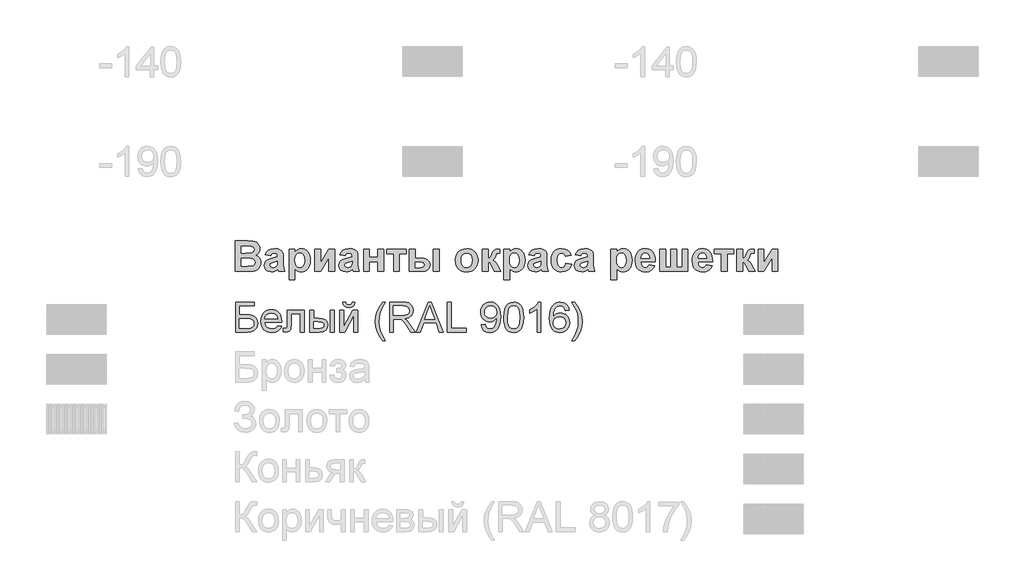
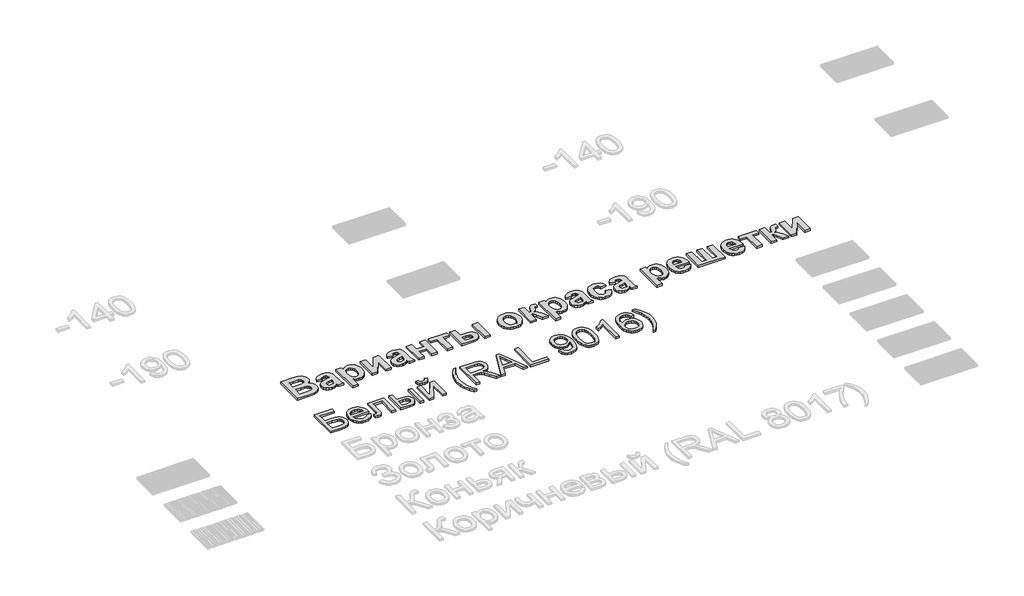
# One storey, part 6 of 10: 2 proxies.
"""IFC4 building model written with IfcOpenShell, lengths in millimetres."""

from ifc_helpers import new_model, si_unit, origin, origin_with_axes, place, context, project, spatial, polyline, outline, extrude, element, save

model = new_model("IFC4")

# Units and contexts
model_context = context("Model", 3, world=origin())
ifc_project = project(units=[si_unit("LENGTHUNIT", "METRE", prefix="MILLI")], contexts=[model_context])

# Site, building, storey
site = spatial("IfcSite", under=ifc_project)
building = spatial("IfcBuilding", under=site)
storey = spatial("IfcBuildingStorey", under=building, Name="Уровень 1", Elevation=0.0)

# Proxies
placement = place(None, origin())
element("IfcBuildingElementProxy", 1, Name="300", ObjectType="300", at=placement, inside=storey, context=model_context, shape_type="SweptSolid", body=[
    extrude(outline(polyline([(7102.1636245, -18213.7438159), (7290.519206, -18213.7438159), (7290.519206, -18251.4149322), (7139.8347408, -18251.4149322), (7139.8347408, -18340.8838335), (7210.3945075, -18340.8838335), (7245.4720557, -18342.7968198), (7272.5665647, -18348.535779), (7293.3702915, -18359.5906329), (7309.5754934, -18377.4513038), (7320.0049479, -18400.4439285), (7323.4814328, -18426.8946439), (7321.0074264, -18449.1055194), (7313.5854071, -18469.8264728), (7301.2521632, -18487.9722522), (7284.0444829, -18502.4576057), (7257.501797, -18511.9489612), (7217.1635362, -18515.1127464), (7102.1636245, -18515.1127464), (7102.1636245, -18213.7438159)]), holes=[polyline([(7139.8347408, -18477.4416301), (7220.5480505, -18477.4416301), (7249.0772993, -18474.3330272), (7269.4763559, -18465.0072186), (7281.7268263, -18449.4642043), (7285.8103165, -18427.7039843), (7283.4742658, -18411.4987824), (7276.4661138, -18398.1998483), (7265.2916982, -18388.3406108), (7250.4568567, -18382.4544989), (7193.6926649, -18378.5549498), (7139.8347408, -18378.5549498), (7139.8347408, -18477.4416301)])]), origin_with_axes(), (0.0, 0.0, 1.0), 20.0),
    extrude(outline(polyline([(7525.5222245, -18449.1882928), (7562.4575769, -18453.8971824), (7549.1494457, -18481.7274553), (7527.9134575, -18502.5311821), (7499.2278589, -18515.4990225), (7463.5708966, -18519.8216359), (7440.1965943, -18517.9569341), (7419.3698748, -18512.3628285), (7401.0907382, -18503.0393192), (7385.3591844, -18489.9864061), (7372.7086423, -18473.5673728), (7363.6725408, -18454.1455027), (7358.2508799, -18431.7207959), (7356.4436596, -18406.2932522), (7358.269274, -18380.0034851), (7363.7461172, -18356.831518), (7372.8741892, -18336.7773507), (7385.65349, -18319.8409833), (7401.3436571, -18306.3856994), (7419.2043279, -18296.7747822), (7439.2355026, -18291.008232), (7461.437181, -18289.0860485), (7482.9237888, -18291.0036334), (7502.3548559, -18296.7563881), (7519.7303824, -18306.3443126), (7535.0503682, -18319.7674069), (7547.5560568, -18336.6669861), (7556.4886915, -18356.6843652), (7561.8482723, -18379.8195441), (7563.6347992, -18406.072523), (7563.41407, -18416.2260661), (7394.1147759, -18416.2260661), (7400.6354842, -18444.424221), (7415.7830254, -18465.1543714), (7437.6444129, -18477.9014826), (7464.3066605, -18482.1505196), (7484.3562293, -18480.1823509), (7501.2420129, -18474.2778449), (7514.9640113, -18464.0691195), (7525.5222245, -18449.1882928)]), holes=[polyline([(7394.1147759, -18378.5549498), (7525.9636829, -18378.5549498), (7520.8685173, -18358.6525338), (7510.8805211, -18344.4155006), (7488.917966, -18331.1717488), (7461.2900282, -18326.7571648), (7435.8969735, -18330.279635), (7414.9001086, -18340.8470453), (7400.3043904, -18357.3189616), (7394.1147759, -18378.5549498)])]), origin_with_axes(), (0.0, 0.0, 1.0), 20.0),
    extrude(outline(polyline([(7620.1414737, -18293.7949381), (7789.6614971, -18293.7949381), (7789.6614971, -18514.8920172), (7751.9903808, -18514.8920172), (7751.9903808, -18331.4660544), (7657.81259, -18331.4660544), (7657.81259, -18437.048187), (7655.2742042, -18485.7557632), (7650.5193295, -18496.783026), (7641.3314766, -18506.3203667), (7627.388749, -18512.9146515), (7608.3692499, -18515.1127464), (7577.7614679, -18513.19976), (7577.7614679, -18477.4416301), (7594.6104632, -18477.4416301), (7611.6433996, -18475.1239735), (7618.4492165, -18467.7663336), (7620.1414737, -18434.9144714), (7620.1414737, -18293.7949381)])), origin_with_axes(), (0.0, 0.0, 1.0), 20.0),
    extrude(outline(polyline([(8053.3593112, -18293.7949381), (8091.0304275, -18293.7949381), (8091.0304275, -18515.1127464), (8053.3593112, -18515.1127464), (8053.3593112, -18293.7949381)])), origin_with_axes(), (0.0, 0.0, 1.0), 20.0),
    extrude(outline(polyline([(7846.1681715, -18293.7949381), (7883.8392878, -18293.7949381), (7883.8392878, -18373.8460602), (7930.4131484, -18373.8460602), (7970.6686358, -18378.5641468), (7986.885334, -18384.4617551), (8000.4946685, -18392.7184066), (8011.2621147, -18403.0489929), (8018.9531476, -18415.1684053), (8023.5677674, -18429.076644), (8025.105974, -18444.7737089), (8019.946429, -18471.7302621), (8004.4677941, -18494.4745665), (7992.605899, -18503.5037702), (7977.6583937, -18509.9532014), (7938.5065523, -18515.1127464), (7846.1681715, -18515.1127464), (7846.1681715, -18293.7949381)]), holes=[polyline([(7883.8392878, -18477.4416301), (7922.5404737, -18477.4416301), (7952.5412504, -18475.4642644), (7972.4988487, -18469.5321672), (7983.7008554, -18459.4062153), (7987.4348577, -18444.8472853), (7984.6665457, -18432.5416326), (7976.3616096, -18421.6707196), (7958.6021063, -18414.0555623), (7927.4700925, -18411.5171765), (7883.8392878, -18411.5171765), (7883.8392878, -18477.4416301)])]), origin_with_axes(), (0.0, 0.0, 1.0), 20.0),
    extrude(outline(polyline([(8147.537102, -18293.7949381), (8185.2082183, -18293.7949381), (8185.2082183, -18462.5791975), (8277.7673283, -18293.7949381), (8326.4749044, -18293.7949381), (8326.4749044, -18515.1127464), (8288.8037881, -18515.1127464), (8288.8037881, -18347.3585566), (8196.8332893, -18515.1127464), (8147.537102, -18515.1127464), (8147.537102, -18293.7949381)])), origin_with_axes(), (0.0, 0.0, 1.0), 20.0),
    extrude(outline(polyline([(8269.96823, -18213.7438159), (8298.2215672, -18213.7438159), (8292.1423172, -18237.8676778), (8279.937832, -18255.6455752), (8262.1599346, -18266.5992616), (8239.360448, -18270.2504904), (8214.6203838, -18266.6268527), (8195.4353378, -18255.7559398), (8182.3203446, -18238.0056335), (8175.7904392, -18213.7438159), (8204.0437764, -18213.7438159), (8208.016902, -18226.1506362), (8214.6387779, -18234.9706071), (8223.9461924, -18240.2405166), (8235.9759336, -18241.9971532), (8249.5507792, -18240.2956989), (8259.3732285, -18235.1913363), (8265.9951044, -18226.4265477), (8269.96823, -18213.7438159)])), origin_with_axes(), (0.0, 0.0, 1.0), 20.0),
    extrude(outline(polyline([(8576.04605, -18599.8727581), (8546.8546136, -18558.9090979), (8522.5560079, -18511.5075028), (8506.166865, -18459.9672353), (8500.7038174, -18406.5875578), (8504.7873075, -18359.7745739), (8517.0377779, -18314.984941), (8541.3547778, -18264.2540139), (8576.04605, -18213.7438159), (8604.2993872, -18213.7438159), (8569.0562921, -18273.4142755), (8547.8662891, -18331.2453252), (8540.7477725, -18368.9348356), (8538.3749337, -18406.808287), (8542.495212, -18455.1019959), (8554.856047, -18503.3773107), (8575.4574388, -18551.6342315), (8604.2993872, -18599.8727581), (8576.04605, -18599.8727581)])), origin_with_axes(), (0.0, 0.0, 1.0), 20.0),
    extrude(outline(polyline([(8646.679393, -18515.1127464), (8646.679393, -18213.7438159), (8776.5417373, -18213.7438159), (8811.4445416, -18215.776364), (8836.8375963, -18221.874008), (8855.397243, -18233.1311971), (8869.7998231, -18250.64238), (8879.0428582, -18272.3566148), (8882.12387, -18296.2229593), (8877.0195073, -18325.9110363), (8861.7064192, -18350.5223417), (8850.1066401, -18360.5517246), (8835.7247533, -18368.5669536), (8798.614657, -18378.5549498), (8820.0253892, -18394.6681812), (8850.5595948, -18433.4429435), (8900.8122753, -18515.1127464), (8857.0343179, -18515.1127464), (8817.8180972, -18452.6463836), (8789.4911836, -18411.2964473), (8769.5887676, -18391.7619134), (8751.6729145, -18384.5882145), (8729.820724, -18383.2638393), (8684.3505093, -18383.2638393), (8684.3505093, -18515.1127464), (8646.679393, -18515.1127464)]), holes=[polyline([(8684.3505093, -18345.592723), (8768.6690626, -18345.592723), (8792.884895, -18344.2591508), (8811.6744679, -18340.2584341), (8825.8195306, -18333.3238585), (8836.1018324, -18323.1887095), (8842.3650233, -18310.929042), (8844.4527536, -18297.6209108), (8840.4704311, -18279.2452052), (8828.5234633, -18264.4379549), (8807.9680568, -18254.6706879), (8778.1604181, -18251.4149322), (8684.3505093, -18251.4149322), (8684.3505093, -18345.592723)])]), origin_with_axes(), (0.0, 0.0, 1.0), 20.0),
    extrude(outline(polyline([(8912.9523812, -18515.1127464), (9033.2497936, -18213.7438159), (9065.3291036, -18213.7438159), (9185.626516, -18515.1127464), (9145.8216841, -18515.1127464), (9111.3143529, -18420.9349556), (8987.1909678, -18420.9349556), (8952.757213, -18515.1127464), (8912.9523812, -18515.1127464)]), holes=[polyline([(9001.0233308, -18383.2638393), (9097.5555663, -18383.2638393), (9070.4058751, -18309.1724055), (9049.2894486, -18251.4149322), (9030.5274668, -18302.6976824), (9001.0233308, -18383.2638393)])]), origin_with_axes(), (0.0, 0.0, 1.0), 20.0),
    extrude(outline(polyline([(9225.8728062, -18515.1127464), (9225.8728062, -18213.7438159), (9263.5439226, -18213.7438159), (9263.5439226, -18477.4416301), (9414.2283878, -18477.4416301), (9414.2283878, -18515.1127464), (9225.8728062, -18515.1127464)])), origin_with_axes(), (0.0, 0.0, 1.0), 20.0),
    extrude(outline(polyline([(9564.912853, -18439.7705138), (9602.5839693, -18435.0616242), (9609.0219042, -18456.4447652), (9619.5065411, -18471.0036952), (9633.7803625, -18479.3638135), (9651.5858511, -18482.1505196), (9667.5611267, -18480.3570949), (9682.0832685, -18474.9768207), (9694.1497979, -18466.5983083), (9702.7582366, -18455.8101688), (9715.0822834, -18423.0686712), (9720.526937, -18379.3642902), (9720.3062078, -18372.0066503), (9707.255594, -18387.9359406), (9690.1766724, -18400.5542931), (9670.3018476, -18408.7764557), (9648.8635243, -18411.5171765), (9630.9683645, -18409.8433135), (9614.512543, -18404.8217242), (9599.4960598, -18396.4524088), (9585.9189149, -18384.7353673), (9574.6686237, -18370.2822034), (9566.6327013, -18353.704521), (9561.8111479, -18335.0023201), (9560.2039635, -18314.1756006), (9561.8893229, -18292.6545039), (9566.945401, -18273.3406992), (9575.372198, -18256.2341864), (9587.1697137, -18241.3349656), (9601.5056152, -18229.2638376), (9617.5475695, -18220.6416033), (9635.2955765, -18215.4682628), (9654.7496362, -18213.7438159), (9682.8466236, -18217.6801533), (9708.4236193, -18229.4891653), (9729.8159573, -18248.5822409), (9745.3589716, -18274.3707687), (9754.822736, -18310.0185341), (9757.9773241, -18358.689322), (9754.831933, -18410.2939689), (9745.3957598, -18450.1815742), (9729.751578, -18480.1547598), (9707.9821609, -18502.0161474), (9681.0256077, -18515.3702638), (9649.8200175, -18519.8216359), (9617.6119488, -18514.5701204), (9591.9153914, -18498.815574), (9573.944356, -18473.551278), (9564.912853, -18439.7705138)]), holes=[polyline([(9720.3062078, -18313.2926838), (9716.2411117, -18287.7616734), (9704.0458236, -18268.1167748), (9685.1182949, -18255.5903929), (9660.8564773, -18251.4149322), (9635.6933489, -18255.9122896), (9615.5334155, -18269.4043618), (9602.2896637, -18290.0517388), (9597.8750798, -18316.0150106), (9602.0505404, -18339.2927438), (9614.5769224, -18357.769617), (9634.240215, -18369.8269494), (9659.8264078, -18373.8460602), (9683.8950873, -18369.8269494), (9703.2732714, -18357.769617), (9716.0479737, -18338.6121621), (9720.3062078, -18313.2926838)])]), origin_with_axes(), (0.0, 0.0, 1.0), 20.0),
    extrude(outline(polyline([(9790.9395508, -18366.8563023), (9793.7078629, -18318.6177757), (9802.0127989, -18280.1465161), (9815.7715855, -18250.8539122), (9834.9014493, -18230.1513529), (9859.5403459, -18217.8457002), (9889.8262311, -18213.7438159), (9913.039585, -18216.1718371), (9933.8249178, -18223.4559006), (9951.207342, -18235.3108979), (9964.2119706, -18251.4517204), (9974.0344198, -18271.7404125), (9981.8703063, -18296.0390183), (9987.0022602, -18326.8951206), (9988.7129114, -18366.8563023), (9985.9721906, -18414.8189174), (9977.750028, -18453.1982066), (9964.0740148, -18482.5184016), (9944.9717422, -18503.3037343), (9920.2776633, -18515.6921605), (9889.8262311, -18519.8216359), (9869.0776866, -18518.0282112), (9850.6835869, -18512.647937), (9834.6439319, -18503.6808134), (9820.9587216, -18491.1268403), (9807.8253344, -18468.4331197), (9798.4443435, -18440.1567899), (9792.815749, -18406.2978507), (9790.9395508, -18366.8563023)]), holes=[polyline([(9828.6106671, -18366.7827259), (9833.0252511, -18426.0393183), (9838.543481, -18446.307317), (9846.2690029, -18460.3351173), (9865.9874779, -18476.696669), (9889.8262311, -18482.1505196), (9913.6649844, -18476.6782749), (9933.3834594, -18460.2615409), (9941.1089813, -18446.2107479), (9946.6272112, -18425.9473478), (9951.0417951, -18366.7827259), (9946.774364, -18308.8597058), (9941.4400751, -18288.6583857), (9933.9720706, -18274.2971923), (9914.2903838, -18257.1354973), (9889.3847727, -18251.4149322), (9865.8035369, -18256.4549156), (9846.8576141, -18271.5748656), (9838.8745748, -18287.2098504), (9833.1724039, -18308.2894887), (9828.6106671, -18366.7827259)])]), origin_with_axes(), (0.0, 0.0, 1.0), 20.0),
    extrude(outline(polyline([(10162.9418244, -18515.1127464), (10125.2707081, -18515.1127464), (10125.2707081, -18280.2568807), (10089.5861545, -18305.6775265), (10049.9284754, -18324.6970257), (10049.9284754, -18289.0860485), (10079.5153849, -18272.9912113), (10105.1475629, -18253.8429534), (10125.3534815, -18233.480685), (10138.6616127, -18213.7438159), (10162.9418244, -18213.7438159), (10162.9418244, -18515.1127464)])), origin_with_axes(), (0.0, 0.0, 1.0), 20.0),
    extrude(outline(polyline([(10445.4751967, -18293.7949381), (10407.8040804, -18298.5038276), (10401.7340274, -18279.8338164), (10393.5302589, -18267.0867052), (10376.4421403, -18255.3328755), (10355.7855662, -18251.4149322), (10338.2743833, -18253.6958006), (10321.7932699, -18260.5384057), (10307.6390101, -18274.9501829), (10296.0783184, -18294.7882195), (10288.2700231, -18322.8484187), (10285.3729524, -18361.9266836), (10300.4837053, -18344.295939), (10318.5926965, -18331.8707246), (10338.6882505, -18324.5038876), (10359.7586918, -18322.0482753), (10377.8584859, -18323.7267369), (10394.5603285, -18328.7621217), (10409.8642195, -18337.1544297), (10423.7701589, -18348.903661), (10435.3262521, -18363.3108396), (10443.5806044, -18379.6769899), (10448.5332157, -18398.0021117), (10450.1840862, -18418.2862052), (10447.0754833, -18445.2611525), (10437.7496748, -18470.2679312), (10422.9792127, -18491.4763282), (10403.5366492, -18507.0561307), (10380.3049012, -18516.6302596), (10354.1668855, -18519.8216359), (10331.7099889, -18517.7063144), (10311.4281947, -18511.36035), (10293.3215027, -18500.7837427), (10277.3899131, -18485.9764924), (10264.4013794, -18466.3131997), (10255.1238553, -18441.1684653), (10249.5573409, -18410.5422893), (10247.7018361, -18374.4346714), (10249.7619752, -18333.9538564), (10255.9423927, -18299.4051385), (10266.2430886, -18270.7885178), (10280.6640628, -18248.1039943), (10296.2944491, -18233.0714163), (10314.4172359, -18222.3338605), (10335.0324232, -18215.8913271), (10358.140011, -18213.7438159), (10391.1942083, -18219.0597108), (10417.6633178, -18235.0073953), (10436.2045704, -18260.3360706), (10445.4751967, -18293.7949381)]), holes=[polyline([(10285.3729524, -18417.6975941), (10287.5526532, -18434.3902396), (10294.0917556, -18450.328727), (10304.2452987, -18464.0323314), (10317.2683213, -18474.0203275), (10332.9860796, -18480.1179716), (10351.2238295, -18482.1505196), (10376.0834553, -18477.9382708), (10395.6271863, -18465.3015242), (10408.291524, -18445.4358965), (10412.5129699, -18419.537004), (10408.3467063, -18394.6773782), (10395.8479155, -18375.7222584), (10375.9730907, -18363.7201083), (10349.6787251, -18359.7193916), (10324.8558875, -18363.7201083), (10304.0981459, -18375.7222584), (10290.0542507, -18394.2175257), (10285.3729524, -18417.6975941)])]), origin_with_axes(), (0.0, 0.0, 1.0), 20.0),
    extrude(outline(polyline([(10501.9818711, -18599.8727581), (10473.7285339, -18599.8727581), (10502.5704823, -18551.6342315), (10523.171874, -18503.3773107), (10535.5327091, -18455.1019959), (10539.6529874, -18406.808287), (10537.2801486, -18369.2107471), (10530.1616319, -18331.9075128), (10521.1669172, -18302.3481945), (10509.1923582, -18274.0028867), (10473.7285339, -18213.7438159), (10501.9818711, -18213.7438159), (10536.6731433, -18264.2540139), (10560.9901431, -18314.984941), (10573.2406136, -18359.7745739), (10577.3241037, -18406.5875578), (10571.833465, -18459.9672353), (10555.3615486, -18511.5075028), (10531.0353517, -18558.9090979), (10501.9818711, -18599.8727581)])), origin_with_axes(), (0.0, 0.0, 1.0), 20.0),
])
element("IfcBuildingElementProxy", 2, Name="300_", ObjectType="300_", at=placement, inside=storey, context=model_context, shape_type="SweptSolid", body=[
    extrude(outline(polyline([(7098.3516663, -17600.3985377), (7223.9862873, -17600.3985377), (7279.5919429, -17603.435024), (7296.956849, -17608.1320887), (7312.385995, -17616.1503104), (7325.6421556, -17627.4232658), (7336.4881051, -17641.8845319), (7343.7187381, -17658.9173223), (7346.1289491, -17677.9048507), (7343.2537762, -17698.5909137), (7334.6282572, -17717.530997), (7321.0684481, -17733.3397039), (7303.3904043, -17744.6316374), (7325.7465348, -17755.6009441), (7342.2574291, -17772.2636628), (7352.4486363, -17793.5000889), (7355.8457053, -17818.1905182), (7353.4070273, -17838.6962898), (7346.0909931, -17858.6137422), (7334.5523451, -17876.2633189), (7319.4458257, -17889.9654633), (7300.5911435, -17899.444994), (7277.8080072, -17904.4267294), (7202.9586197, -17906.4763576), (7098.3516663, -17906.4763576), (7098.3516663, -17600.3985377)]), holes=[polyline([(7156.6522034, -17653.8406967), (7156.6522034, -17721.85799), (7201.1367279, -17721.85799), (7250.4796304, -17720.871132), (7266.0131557, -17717.3222386), (7277.8459633, -17710.3193421), (7285.3327998, -17700.204047), (7287.828412, -17687.3179583), (7285.6744045, -17674.9917217), (7279.2123821, -17665.1895643), (7268.5182569, -17658.329003), (7253.667941, -17654.8275548), (7195.6710525, -17653.8406967), (7156.6522034, -17653.8406967)]), polyline([(7156.6522034, -17775.3001491), (7156.6522034, -17853.0341986), (7218.2928755, -17853.0341986), (7263.9919945, -17851.2123068), (7277.4853805, -17847.1415174), (7288.2079728, -17839.6357028), (7295.2108693, -17828.8466873), (7297.5451682, -17814.9262954), (7295.7422544, -17802.8562623), (7290.3335132, -17792.7599454), (7281.5277029, -17784.884059), (7269.533582, -17779.4753178), (7247.9745292, -17776.3439413), (7210.4739233, -17775.3001491), (7156.6522034, -17775.3001491)])]), origin_with_axes(), (0.0, 0.0, 1.0), 20.0),
    extrude(outline(polyline([(7453.0132672, -17751.0082586), (7399.5711082, -17741.2915024), (7411.1572013, -17713.2799162), (7428.9111571, -17693.6186674), (7454.7877139, -17682.0041072), (7490.7416096, -17678.1325872), (7523.2509912, -17680.4763751), (7546.2333969, -17687.5077387), (7561.7574332, -17698.1354407), (7571.8917062, -17711.268244), (7577.4712498, -17731.6791254), (7579.3310977, -17764.1410619), (7579.3310977, -17833.0693011), (7582.4055401, -17876.4910553), (7593.906232, -17906.4763576), (7535.6056948, -17906.4763576), (7530.1400195, -17887.9537912), (7528.0903912, -17880.5903119), (7513.0028499, -17894.0172748), (7496.8904944, -17903.6296517), (7479.7153687, -17909.4084647), (7461.4395167, -17911.3347357), (7431.710418, -17906.656649), (7409.0221718, -17892.6223889), (7394.646307, -17871.4523859), (7389.854352, -17845.3670707), (7391.9893814, -17827.4897575), (7398.3944697, -17811.6620726), (7408.6521001, -17798.5862035), (7422.3447555, -17788.9643375), (7466.7533678, -17775.2242369), (7521.0305606, -17760.7250148), (7521.0305606, -17754.57613), (7519.2181578, -17739.4316546), (7513.7809495, -17729.3732937), (7503.3335388, -17723.7368159), (7486.4905288, -17721.85799), (7474.4015177, -17723.4711234), (7465.3110368, -17728.3105234), (7458.4409865, -17737.2112239), (7453.0132672, -17751.0082586)]), holes=[polyline([(7521.0305606, -17804.4504177), (7488.1605963, -17812.5350625), (7458.7066791, -17821.7583896), (7450.7928366, -17830.0517928), (7448.1548891, -17840.3568683), (7450.2709405, -17850.6904107), (7456.6190947, -17859.5246881), (7466.2314717, -17865.5881717), (7478.1401914, -17867.6093329), (7492.4306551, -17865.256056), (7505.9999533, -17858.1962253), (7514.1605103, -17850.2634048), (7518.9050201, -17840.736429), (7521.0305606, -17815.0022076), (7521.0305606, -17804.4504177)])]), origin_with_axes(), (0.0, 0.0, 1.0), 20.0),
    extrude(outline(polyline([(7637.6316348, -17682.9909653), (7695.932172, -17682.9909653), (7695.932172, -17715.1777202), (7707.983227, -17700.204047), (7723.6401096, -17688.3807285), (7742.0677858, -17680.6946225), (7762.4312222, -17678.1325872), (7780.2919295, -17680.0375079), (7796.7530065, -17685.75227), (7811.814453, -17695.2768736), (7825.4762692, -17708.6113185), (7836.81802, -17725.3428325), (7844.9192706, -17745.0586432), (7849.7800209, -17767.7587507), (7851.400271, -17793.4431548), (7849.7278313, -17819.8558412), (7844.7105121, -17843.1466401), (7836.3483135, -17863.3155515), (7824.6412354, -17880.3625754), (7810.5524134, -17893.9128955), (7795.0449829, -17903.5916957), (7778.118944, -17909.3989757), (7759.7742966, -17911.3347357), (7742.4853027, -17909.531822), (7726.9043323, -17904.1230808), (7711.7978129, -17894.3304124), (7695.932172, -17879.3757173), (7695.932172, -17989.0687853), (7637.6316348, -17989.0687853), (7637.6316348, -17682.9909653)]), holes=[polyline([(7695.932172, -17790.8621414), (7699.5854446, -17824.9846563), (7710.5452623, -17848.8590299), (7726.761997, -17862.9217571), (7746.1860204, -17867.6093329), (7764.6231857, -17863.310807), (7779.701238, -17850.4152292), (7789.7501099, -17827.708005), (7793.0997339, -17793.9745399), (7789.6552197, -17762.0914336), (7779.3216773, -17739.6214349), (7763.8830422, -17726.2988513), (7745.1232502, -17721.85799), (7725.7371829, -17726.2134501), (7709.9379651, -17739.2798302), (7699.4336203, -17760.8863281), (7695.932172, -17790.8621414)])]), origin_with_axes(), (0.0, 0.0, 1.0), 20.0),
    extrude(outline(polyline([(7895.1256739, -17682.9909653), (7953.426211, -17682.9909653), (7953.426211, -17820.4678829), (8036.0186386, -17682.9909653), (8094.3191758, -17682.9909653), (8094.3191758, -17906.4763576), (8036.0186386, -17906.4763576), (8036.0186386, -17768.9235278), (7953.426211, -17906.4763576), (7895.1256739, -17906.4763576), (7895.1256739, -17682.9909653)])), origin_with_axes(), (0.0, 0.0, 1.0), 20.0),
    extrude(outline(polyline([(8201.2034939, -17751.0082586), (8147.7613348, -17741.2915024), (8159.3474279, -17713.2799162), (8177.1013838, -17693.6186674), (8202.9779406, -17682.0041072), (8238.9318363, -17678.1325872), (8271.4412178, -17680.4763751), (8294.4236236, -17687.5077387), (8309.9476598, -17698.1354407), (8320.0819329, -17711.268244), (8325.6614765, -17731.6791254), (8327.5213243, -17764.1410619), (8327.5213243, -17833.0693011), (8330.5957667, -17876.4910553), (8342.0964586, -17906.4763576), (8283.7959215, -17906.4763576), (8278.3302461, -17887.9537912), (8276.2806179, -17880.5903119), (8261.1930765, -17894.0172748), (8245.080721, -17903.6296517), (8227.9055953, -17909.4084647), (8209.6297434, -17911.3347357), (8179.9006446, -17906.656649), (8157.2123985, -17892.6223889), (8142.8365336, -17871.4523859), (8138.0445786, -17845.3670707), (8140.1796081, -17827.4897575), (8146.5846964, -17811.6620726), (8156.8423267, -17798.5862035), (8170.5349821, -17788.9643375), (8214.9435944, -17775.2242369), (8269.2207872, -17760.7250148), (8269.2207872, -17754.57613), (8267.4083844, -17739.4316546), (8261.9711761, -17729.3732937), (8251.5237654, -17723.7368159), (8234.6807554, -17721.85799), (8222.5917443, -17723.4711234), (8213.5012634, -17728.3105234), (8206.6312131, -17737.2112239), (8201.2034939, -17751.0082586)]), holes=[polyline([(8269.2207872, -17804.4504177), (8236.3508229, -17812.5350625), (8206.8969057, -17821.7583896), (8198.9830633, -17830.0517928), (8196.3451158, -17840.3568683), (8198.4611672, -17850.6904107), (8204.8093214, -17859.5246881), (8214.4216983, -17865.5881717), (8226.3304181, -17867.6093329), (8240.6208818, -17865.256056), (8254.19018, -17858.1962253), (8262.3507369, -17850.2634048), (8267.0952468, -17840.736429), (8269.2207872, -17815.0022076), (8269.2207872, -17804.4504177)])]), origin_with_axes(), (0.0, 0.0, 1.0), 20.0),
    extrude(outline(polyline([(8385.8218615, -17682.9909653), (8444.1223986, -17682.9909653), (8444.1223986, -17765.5833929), (8526.7148262, -17765.5833929), (8526.7148262, -17682.9909653), (8585.0153634, -17682.9909653), (8585.0153634, -17906.4763576), (8526.7148262, -17906.4763576), (8526.7148262, -17809.3087957), (8444.1223986, -17809.3087957), (8444.1223986, -17906.4763576), (8385.8218615, -17906.4763576), (8385.8218615, -17682.9909653)])), origin_with_axes(), (0.0, 0.0, 1.0), 20.0),
    extrude(outline(polyline([(8619.02401, -17682.9909653), (8813.3591338, -17682.9909653), (8813.3591338, -17726.7163681), (8745.3418405, -17726.7163681), (8745.3418405, -17906.4763576), (8687.0413034, -17906.4763576), (8687.0413034, -17726.7163681), (8619.02401, -17726.7163681), (8619.02401, -17682.9909653)])), origin_with_axes(), (0.0, 0.0, 1.0), 20.0),
    extrude(outline(polyline([(8842.5094024, -17682.9909653), (8900.8099396, -17682.9909653), (8900.8099396, -17775.3001491), (8957.8958822, -17775.3001491), (8987.5395798, -17776.5432107), (9009.2125008, -17780.2723954), (9025.5431037, -17788.1672598), (9039.159847, -17801.9073604), (9048.3547071, -17820.0598551), (9051.4196605, -17841.191902), (9046.0204083, -17869.7064062), (9039.271343, -17880.9247998), (9029.8226516, -17890.1172877), (9002.8263905, -17902.3865901), (8965.031625, -17906.4763576), (8842.5094024, -17906.4763576), (8842.5094024, -17682.9909653)]), holes=[polyline([(8900.8099396, -17867.6093329), (8953.7966256, -17867.6093329), (8971.6170047, -17866.0246666), (8983.781928, -17861.2706677), (8990.7848245, -17852.9487974), (8993.1191234, -17840.6605169), (8990.1016151, -17827.8598293), (8981.0490903, -17819.8226296), (8964.1776132, -17815.5810378), (8937.7032482, -17814.1671738), (8900.8099396, -17814.1671738), (8900.8099396, -17867.6093329)])]), origin_with_axes(), (0.0, 0.0, 1.0), 20.0),
    extrude(outline(polyline([(9085.4283072, -17682.9909653), (9143.7288443, -17682.9909653), (9143.7288443, -17906.4763576), (9085.4283072, -17906.4763576), (9085.4283072, -17682.9909653)])), origin_with_axes(), (0.0, 0.0, 1.0), 20.0),
    extrude(outline(polyline([(9304.0553214, -17791.5453508), (9307.6516599, -17762.6323078), (9318.4406753, -17734.6491886), (9335.8150704, -17710.3857652), (9359.167548, -17692.6318093), (9387.0462879, -17681.7573927), (9417.9994702, -17678.1325872), (9441.9900843, -17680.1869599), (9463.7080782, -17686.3500783), (9483.1534518, -17696.6219421), (9500.3262053, -17711.0025515), (9514.3580932, -17728.5240264), (9524.3808702, -17748.2184868), (9530.3945365, -17770.0859327), (9532.3990919, -17794.1263642), (9530.3731862, -17818.3589483), (9524.2954691, -17840.4232914), (9514.1659405, -17860.3193935), (9499.9846006, -17878.0472546), (9482.7335627, -17892.6105276), (9463.3949405, -17903.0128655), (9441.968734, -17909.2542682), (9418.4549431, -17911.3347357), (9388.7258444, -17907.8712435), (9360.4200986, -17897.480767), (9336.1282081, -17880.3910424), (9318.4406753, -17856.8298065), (9307.6516599, -17827.1101967), (9304.0553214, -17791.5453508)]), holes=[polyline([(9362.3558586, -17794.7336615), (9366.388692, -17825.9050912), (9378.4871921, -17848.8210738), (9396.5068405, -17862.9122681), (9418.3031188, -17867.6093329), (9440.0804191, -17862.9122681), (9458.0431334, -17848.8210738), (9470.0846994, -17825.791223), (9474.0985548, -17794.2781885), (9470.0846994, -17763.4483635), (9458.0431334, -17740.6462491), (9440.0804191, -17726.5550548), (9418.3031188, -17721.85799), (9396.5068405, -17726.5550548), (9378.4871921, -17740.6462491), (9366.388692, -17763.5622317), (9362.3558586, -17794.7336615)])]), origin_with_axes(), (0.0, 0.0, 1.0), 20.0),
    extrude(outline(polyline([(9576.1244948, -17682.9909653), (9634.4250319, -17682.9909653), (9634.4250319, -17775.3001491), (9646.7322905, -17772.2162177), (9654.8074463, -17766.3045584), (9669.2687123, -17734.3075839), (9680.8832724, -17707.3397899), (9693.5606028, -17692.1763364), (9708.8189465, -17685.287308), (9728.1765467, -17682.9909653), (9751.0261062, -17683.9778233), (9751.2538427, -17721.85799), (9732.5414958, -17722.9966724), (9722.1035741, -17726.4127195), (9715.4612603, -17735.8258271), (9708.2875614, -17754.6520422), (9696.0467259, -17780.2913735), (9679.3650293, -17793.7468034), (9692.6117008, -17799.6157621), (9704.7956021, -17809.5555103), (9725.9750941, -17841.6473749), (9728.2524589, -17845.9743679), (9760.7428624, -17906.4763576), (9695.2306702, -17906.4763576), (9667.5986448, -17843.9247397), (9652.8716862, -17819.556937), (9645.1476242, -17815.5146146), (9634.4250319, -17814.1671738), (9634.4250319, -17906.4763576), (9576.1244948, -17906.4763576), (9576.1244948, -17682.9909653)])), origin_with_axes(), (0.0, 0.0, 1.0), 20.0),
    extrude(outline(polyline([(9789.8931309, -17682.9909653), (9848.1936681, -17682.9909653), (9848.1936681, -17715.1777202), (9860.2447231, -17700.204047), (9875.9016057, -17688.3807285), (9894.3292819, -17680.6946225), (9914.6927183, -17678.1325872), (9932.5534256, -17680.0375079), (9949.0145026, -17685.75227), (9964.0759491, -17695.2768736), (9977.7377653, -17708.6113185), (9989.0795161, -17725.3428325), (9997.1807667, -17745.0586432), (10002.041517, -17767.7587507), (10003.6617671, -17793.4431548), (10001.9893274, -17819.8558412), (9996.9720082, -17843.1466401), (9988.6098096, -17863.3155515), (9976.9027315, -17880.3625754), (9962.8139095, -17893.9128955), (9947.306479, -17903.5916957), (9930.3804401, -17909.3989757), (9912.0357927, -17911.3347357), (9894.7467988, -17909.531822), (9879.1658284, -17904.1230808), (9864.059309, -17894.3304124), (9848.1936681, -17879.3757173), (9848.1936681, -17989.0687853), (9789.8931309, -17989.0687853), (9789.8931309, -17682.9909653)]), holes=[polyline([(9848.1936681, -17790.8621414), (9851.8469407, -17824.9846563), (9862.8067584, -17848.8590299), (9879.0234931, -17862.9217571), (9898.4475165, -17867.6093329), (9916.8846818, -17863.310807), (9931.9627341, -17850.4152292), (9942.011606, -17827.708005), (9945.36123, -17793.9745399), (9941.9167158, -17762.0914336), (9931.5831734, -17739.6214349), (9916.1445383, -17726.2988513), (9897.3847463, -17721.85799), (9877.998679, -17726.2134501), (9862.1994612, -17739.2798302), (9851.6951164, -17760.8863281), (9848.1936681, -17790.8621414)])]), origin_with_axes(), (0.0, 0.0, 1.0), 20.0),
    extrude(outline(polyline([(10095.9709509, -17751.0082586), (10042.5287919, -17741.2915024), (10054.114885, -17713.2799162), (10071.8688408, -17693.6186674), (10097.7453976, -17682.0041072), (10133.6992933, -17678.1325872), (10166.2086749, -17680.4763751), (10189.1910806, -17687.5077387), (10204.7151169, -17698.1354407), (10214.8493899, -17711.268244), (10220.4289335, -17731.6791254), (10222.2887814, -17764.1410619), (10222.2887814, -17833.0693011), (10225.3632238, -17876.4910553), (10236.8639157, -17906.4763576), (10178.5633785, -17906.4763576), (10173.0977032, -17887.9537912), (10171.0480749, -17880.5903119), (10155.9605336, -17894.0172748), (10139.8481781, -17903.6296517), (10122.6730524, -17909.4084647), (10104.3972004, -17911.3347357), (10074.6681017, -17906.656649), (10051.9798555, -17892.6223889), (10037.6039907, -17871.4523859), (10032.8120357, -17845.3670707), (10034.9470651, -17827.4897575), (10041.3521534, -17811.6620726), (10051.6097838, -17798.5862035), (10065.3024392, -17788.9643375), (10109.7110515, -17775.2242369), (10163.9882443, -17760.7250148), (10163.9882443, -17754.57613), (10162.1758415, -17739.4316546), (10156.7386332, -17729.3732937), (10146.2912225, -17723.7368159), (10129.4482125, -17721.85799), (10117.3592014, -17723.4711234), (10108.2687205, -17728.3105234), (10101.3986702, -17737.2112239), (10095.9709509, -17751.0082586)]), holes=[polyline([(10163.9882443, -17804.4504177), (10131.11828, -17812.5350625), (10101.6643628, -17821.7583896), (10093.7505203, -17830.0517928), (10091.1125728, -17840.3568683), (10093.2286242, -17850.6904107), (10099.5767784, -17859.5246881), (10109.1891554, -17865.5881717), (10121.0978751, -17867.6093329), (10135.3883388, -17865.256056), (10148.957637, -17858.1962253), (10157.118194, -17850.2634048), (10161.8627038, -17840.736429), (10163.9882443, -17815.0022076), (10163.9882443, -17804.4504177)])]), origin_with_axes(), (0.0, 0.0, 1.0), 20.0),
    extrude(outline(polyline([(10465.2076862, -17746.1498805), (10406.907149, -17755.8666367), (10402.4378207, -17741.0352989), (10394.4955112, -17730.3981078), (10383.3648911, -17723.9930195), (10369.3306309, -17721.85799), (10350.8460205, -17725.8623564), (10336.5365788, -17737.8754553), (10327.3701857, -17759.2637058), (10324.3147214, -17791.3935265), (10327.493543, -17827.0153065), (10337.0300078, -17850.3772731), (10351.9182798, -17863.3013179), (10371.1525227, -17867.6093329), (10385.718168, -17865.1516768), (10397.3801732, -17857.7787085), (10406.0816043, -17844.3897016), (10411.7655271, -17823.88393), (10470.0660642, -17833.6006862), (10457.3033327, -17867.3721074), (10436.4749344, -17891.711443), (10407.391089, -17906.4289125), (10369.862016, -17911.3347357), (10347.3422, -17909.4037202), (10327.2278504, -17903.6106737), (10309.5189674, -17893.9555961), (10294.2155509, -17880.4384875), (10281.877453, -17863.5100764), (10273.0645259, -17843.621091), (10267.7767697, -17820.7715316), (10266.0141843, -17794.9613979), (10267.7649084, -17768.8594769), (10273.0170808, -17745.8177648), (10281.7707015, -17725.8362616), (10294.0257705, -17708.9149671), (10309.2698806, -17695.4476759), (10326.990625, -17685.8281822), (10347.1880034, -17680.0564859), (10369.862016, -17678.1325872), (10404.9524109, -17682.3362229), (10432.0340732, -17694.9471301), (10451.8661244, -17716.1550892), (10465.2076862, -17746.1498805)])), origin_with_axes(), (0.0, 0.0, 1.0), 20.0),
    extrude(outline(polyline([(10562.3752481, -17751.0082586), (10508.933089, -17741.2915024), (10520.5191821, -17713.2799162), (10538.273138, -17693.6186674), (10564.1496947, -17682.0041072), (10600.1035904, -17678.1325872), (10632.612972, -17680.4763751), (10655.5953778, -17687.5077387), (10671.119414, -17698.1354407), (10681.2536871, -17711.268244), (10686.8332307, -17731.6791254), (10688.6930785, -17764.1410619), (10688.6930785, -17833.0693011), (10691.7675209, -17876.4910553), (10703.2682128, -17906.4763576), (10644.9676757, -17906.4763576), (10639.5020003, -17887.9537912), (10637.4523721, -17880.5903119), (10622.3648307, -17894.0172748), (10606.2524752, -17903.6296517), (10589.0773495, -17909.4084647), (10570.8014976, -17911.3347357), (10541.0723988, -17906.656649), (10518.3841526, -17892.6223889), (10504.0082878, -17871.4523859), (10499.2163328, -17845.3670707), (10501.3513623, -17827.4897575), (10507.7564506, -17811.6620726), (10518.0140809, -17798.5862035), (10531.7067363, -17788.9643375), (10576.1153486, -17775.2242369), (10630.3925414, -17760.7250148), (10630.3925414, -17754.57613), (10628.5801386, -17739.4316546), (10623.1429303, -17729.3732937), (10612.6955196, -17723.7368159), (10595.8525096, -17721.85799), (10583.7634985, -17723.4711234), (10574.6730176, -17728.3105234), (10567.8029673, -17737.2112239), (10562.3752481, -17751.0082586)]), holes=[polyline([(10630.3925414, -17804.4504177), (10597.5225771, -17812.5350625), (10568.0686599, -17821.7583896), (10560.1548174, -17830.0517928), (10557.51687, -17840.3568683), (10559.6329214, -17850.6904107), (10565.9810755, -17859.5246881), (10575.5934525, -17865.5881717), (10587.5021723, -17867.6093329), (10601.792636, -17865.256056), (10615.3619342, -17858.1962253), (10623.5224911, -17850.2634048), (10628.267001, -17840.736429), (10630.3925414, -17815.0022076), (10630.3925414, -17804.4504177)])]), origin_with_axes(), (0.0, 0.0, 1.0), 20.0),
    extrude(outline(polyline([(10863.5946899, -17682.9909653), (10921.8952271, -17682.9909653), (10921.8952271, -17715.1777202), (10933.9462821, -17700.204047), (10949.6031647, -17688.3807285), (10968.0308409, -17680.6946225), (10988.3942773, -17678.1325872), (11006.2549846, -17680.0375079), (11022.7160616, -17685.75227), (11037.7775081, -17695.2768736), (11051.4393243, -17708.6113185), (11062.7810751, -17725.3428325), (11070.8823257, -17745.0586432), (11075.743076, -17767.7587507), (11077.3633261, -17793.4431548), (11075.6908864, -17819.8558412), (11070.6735672, -17843.1466401), (11062.3113686, -17863.3155515), (11050.6042905, -17880.3625754), (11036.5154685, -17893.9128955), (11021.008038, -17903.5916957), (11004.0819991, -17909.3989757), (10985.7373517, -17911.3347357), (10968.4483578, -17909.531822), (10952.8673874, -17904.1230808), (10937.7608681, -17894.3304124), (10921.8952271, -17879.3757173), (10921.8952271, -17989.0687853), (10863.5946899, -17989.0687853), (10863.5946899, -17682.9909653)]), holes=[polyline([(10921.8952271, -17790.8621414), (10925.5484997, -17824.9846563), (10936.5083174, -17848.8590299), (10952.7250521, -17862.9217571), (10972.1490755, -17867.6093329), (10990.5862408, -17863.310807), (11005.6642931, -17850.4152292), (11015.713165, -17827.708005), (11019.062789, -17793.9745399), (11015.6182748, -17762.0914336), (11005.2847324, -17739.6214349), (10989.8460973, -17726.2988513), (10971.0863053, -17721.85799), (10951.700238, -17726.2134501), (10935.9010202, -17739.2798302), (10925.3966754, -17760.8863281), (10921.8952271, -17790.8621414)])]), origin_with_axes(), (0.0, 0.0, 1.0), 20.0),
    extrude(outline(polyline([(11247.4065595, -17838.4590643), (11305.7070966, -17848.1758205), (11291.5115231, -17875.38084), (11270.9393283, -17895.2034022), (11244.1992708, -17907.3019024), (11211.5001088, -17911.3347357), (11185.0969115, -17908.9577363), (11162.3659647, -17901.826738), (11143.3072686, -17889.9417408), (11127.9208232, -17873.3027447), (11118.5551607, -17857.0812655), (11111.8654018, -17838.8576031), (11106.5135947, -17796.4037289), (11108.2880414, -17770.1950565), (11113.6113814, -17746.9849142), (11122.4836149, -17726.7733022), (11134.9047417, -17709.5602205), (11150.0397281, -17695.8106309), (11167.0535405, -17685.9894955), (11185.9461787, -17680.0968143), (11206.7176429, -17678.1325872), (11229.7996834, -17680.1490039), (11250.3101995, -17686.1982539), (11268.2491913, -17696.2803374), (11283.6166587, -17710.3952542), (11295.8622386, -17728.6758507), (11304.4355679, -17751.2549731), (11309.3366466, -17778.1326215), (11310.5654747, -17809.3087957), (11164.8141318, -17809.3087957), (11168.5528056, -17833.8663788), (11178.5542324, -17852.275077), (11193.300169, -17863.7757689), (11211.2723724, -17867.6093329), (11223.5132078, -17865.8823313), (11233.6664589, -17860.7013265), (11241.6562135, -17851.6867578), (11247.4065595, -17838.4590643)]), holes=[polyline([(11252.2649375, -17775.3001491), (11248.7160442, -17752.2513202), (11239.2839586, -17735.4842223), (11225.5818141, -17725.2645481), (11209.2227441, -17721.85799), (11191.9527282, -17725.4448395), (11177.9469351, -17736.2053878), (11168.761564, -17753.1907331), (11165.8009899, -17775.3001491), (11252.2649375, -17775.3001491)])]), origin_with_axes(), (0.0, 0.0, 1.0), 20.0),
    extrude(outline(polyline([(11354.2908775, -17682.9909653), (11412.5914147, -17682.9909653), (11412.5914147, -17862.7509548), (11466.0335737, -17862.7509548), (11466.0335737, -17682.9909653), (11524.3341109, -17682.9909653), (11524.3341109, -17862.7509548), (11577.7762699, -17862.7509548), (11577.7762699, -17682.9909653), (11636.0768071, -17682.9909653), (11636.0768071, -17906.4763576), (11354.2908775, -17906.4763576), (11354.2908775, -17682.9909653)])), origin_with_axes(), (0.0, 0.0, 1.0), 20.0),
    extrude(outline(polyline([(11820.6951747, -17838.4590643), (11878.9957118, -17848.1758205), (11864.8001383, -17875.38084), (11844.2279436, -17895.2034022), (11817.487886, -17907.3019024), (11784.7887241, -17911.3347357), (11758.3855267, -17908.9577363), (11735.65458, -17901.826738), (11716.5958839, -17889.9417408), (11701.2094384, -17873.3027447), (11691.8437759, -17857.0812655), (11685.154017, -17838.8576031), (11679.8022099, -17796.4037289), (11681.5766566, -17770.1950565), (11686.8999967, -17746.9849142), (11695.7722301, -17726.7733022), (11708.1933569, -17709.5602205), (11723.3283434, -17695.8106309), (11740.3421557, -17685.9894955), (11759.234794, -17680.0968143), (11780.0062581, -17678.1325872), (11803.0882986, -17680.1490039), (11823.5988147, -17686.1982539), (11841.5378065, -17696.2803374), (11856.9052739, -17710.3952542), (11869.1508538, -17728.6758507), (11877.7241832, -17751.2549731), (11882.6252618, -17778.1326215), (11883.8540899, -17809.3087957), (11738.102747, -17809.3087957), (11741.8414208, -17833.8663788), (11751.8428476, -17852.275077), (11766.5887842, -17863.7757689), (11784.5609876, -17867.6093329), (11796.801823, -17865.8823313), (11806.9550741, -17860.7013265), (11814.9448287, -17851.6867578), (11820.6951747, -17838.4590643)]), holes=[polyline([(11825.5535528, -17775.3001491), (11822.0046594, -17752.2513202), (11812.5725738, -17735.4842223), (11798.8704293, -17725.2645481), (11782.5113593, -17721.85799), (11765.2413434, -17725.4448395), (11751.2355503, -17736.2053878), (11742.0501793, -17753.1907331), (11739.0896051, -17775.3001491), (11825.5535528, -17775.3001491)])]), origin_with_axes(), (0.0, 0.0, 1.0), 20.0),
    extrude(outline(polyline([(11903.2876023, -17682.9909653), (12097.6227261, -17682.9909653), (12097.6227261, -17726.7163681), (12029.6054328, -17726.7163681), (12029.6054328, -17906.4763576), (11971.3048956, -17906.4763576), (11971.3048956, -17726.7163681), (11903.2876023, -17726.7163681), (11903.2876023, -17682.9909653)])), origin_with_axes(), (0.0, 0.0, 1.0), 20.0),
    extrude(outline(polyline([(12126.7729947, -17682.9909653), (12185.0735318, -17682.9909653), (12185.0735318, -17775.3001491), (12197.3807904, -17772.2162177), (12205.4559461, -17766.3045584), (12219.9172122, -17734.3075839), (12231.5317723, -17707.3397899), (12244.2091027, -17692.1763364), (12259.4674464, -17685.287308), (12278.8250466, -17682.9909653), (12301.6746061, -17683.9778233), (12301.9023425, -17721.85799), (12283.1899957, -17722.9966724), (12272.752074, -17726.4127195), (12266.1097602, -17735.8258271), (12258.9360613, -17754.6520422), (12246.6952258, -17780.2913735), (12230.0135292, -17793.7468034), (12243.2602007, -17799.6157621), (12255.444102, -17809.5555103), (12276.623594, -17841.6473749), (12278.9009588, -17845.9743679), (12311.3913623, -17906.4763576), (12245.8791701, -17906.4763576), (12218.2471447, -17843.9247397), (12203.5201861, -17819.556937), (12195.7961241, -17815.5146146), (12185.0735318, -17814.1671738), (12185.0735318, -17906.4763576), (12126.7729947, -17906.4763576), (12126.7729947, -17682.9909653)])), origin_with_axes(), (0.0, 0.0, 1.0), 20.0),
    extrude(outline(polyline([(12340.5416308, -17682.9909653), (12398.842168, -17682.9909653), (12398.842168, -17820.4678829), (12481.4345956, -17682.9909653), (12539.7351327, -17682.9909653), (12539.7351327, -17906.4763576), (12481.4345956, -17906.4763576), (12481.4345956, -17768.9235278), (12398.842168, -17906.4763576), (12340.5416308, -17906.4763576), (12340.5416308, -17682.9909653)])), origin_with_axes(), (0.0, 0.0, 1.0), 20.0),
])

save(model, "model.ifc")
